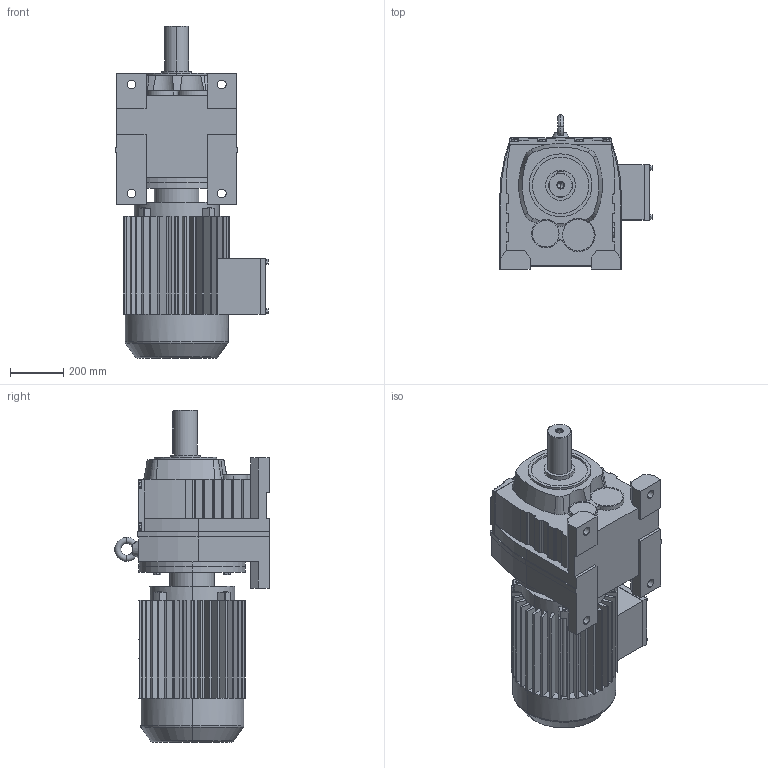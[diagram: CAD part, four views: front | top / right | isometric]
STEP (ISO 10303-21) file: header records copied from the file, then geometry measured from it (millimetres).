
FILE_DESCRIPTION(('Open CASCADE Model'),'2;1');
FILE_NAME('Open CASCADE Shape Model','2021-07-02T10:42:43',('Author'),( 'Open CASCADE'),'Open CASCADE STEP processor 6.3','Open CASCADE 6.3' ,'Unknown');
FILE_SCHEMA(('AUTOMOTIVE_DESIGN_CC2 { 1 2 10303 214 -1 1 5 4 }'));
Length unit declared in the file: millimetre
Products named in the file (3): 1_R137-Y200L; R37‵167_137.step; 萇儂_400_Y200L.step
Assembly tree (2 placements, depth 2):
  1_R137-Y200L
    R37‵167_137.step
    萇儂_400_Y200L.step
Bounding box: 574 x 581 x 1249 mm (x, y, z)
Volume: 144479095.4 mm3; surface area: 3558830.4 mm2
Topology: 2 solids, 2 shells, 736 faces, 1954 edges, 1263 vertices
Faces by surface type: plane 521, cylinder 185, cone 20, torus 10
Entity records: 51187 total; most frequent: CARTESIAN_POINT 13886, DIRECTION 6508, ORIENTED_EDGE 3904, PCURVE 3904, DEFINITIONAL_REPRESENTATION 3904, LINE 3641, VECTOR 3641, EDGE_CURVE 1952
